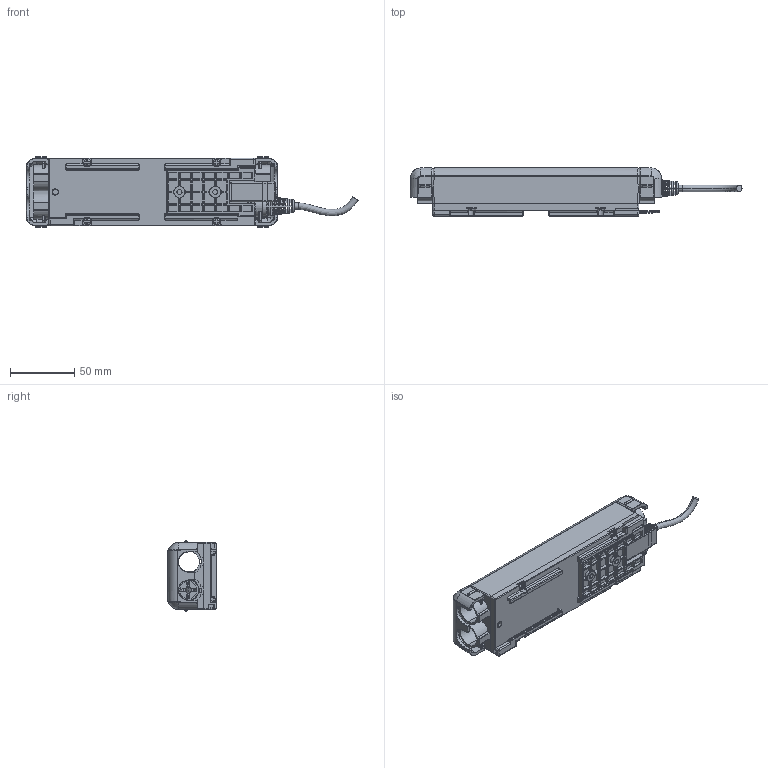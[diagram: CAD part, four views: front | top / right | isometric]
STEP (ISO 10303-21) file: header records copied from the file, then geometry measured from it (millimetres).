
FILE_DESCRIPTION (( 'STEP AP203' ), '1' );
FILE_NAME ('cm23-stp.STEP', '2022-01-18T00:42:31', ( '' ), ( '' ), 'SwSTEP 2.0', 'SolidWorks 2020', '' );
FILE_SCHEMA (( 'CONFIG_CONTROL_DESIGN' ));
Length unit declared in the file: millimetre
Products named in the file (1): cm23-stp
Bounding box: 259.37 x 38.1 x 55.13 mm (x, y, z)
Surface area: 55916.2 mm2 (no closed solid volume)
Topology: 0 solids, 12 shells, 1529 faces, 4470 edges, 2873 vertices
Faces by surface type: cylinder 575, plane 482, bspline 238, torus 181, sphere 46, cone 7
Entity records: 70406 total; most frequent: CARTESIAN_POINT 32131, DIRECTION 7741, ORIENTED_EDGE 7712, EDGE_CURVE 4426, AXIS2_PLACEMENT_3D 2911, VERTEX_POINT 2861, VECTOR 1919, LINE 1919
